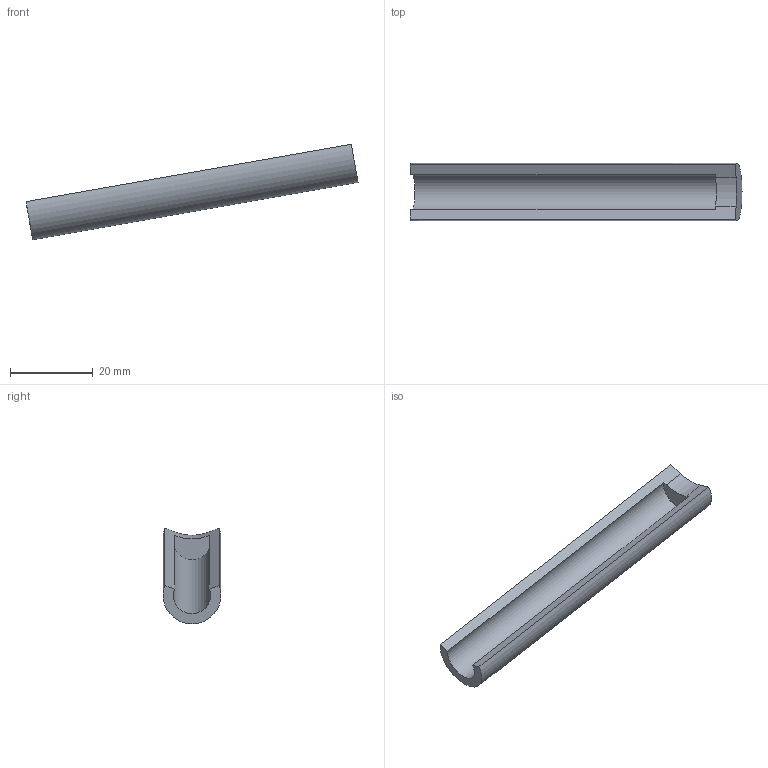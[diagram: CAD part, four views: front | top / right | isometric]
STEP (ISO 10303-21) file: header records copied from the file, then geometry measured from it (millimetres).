
FILE_DESCRIPTION(/* description */ ('STEP AP242 Edition 2','CAx-IF Rec.Pracs.---Representation and Presentation of Product Manufacturing Information (PMI)---4.0---2014-10-13','CAx-IF Rec.Pracs.---3D Tessellated Geometry---0.4---2014-09-14','2;1','CAx-IF Rec.Pracs.---User Defined Attributes---1.5---2016-08-15'),/* implementation_level */ '2;1');
FILE_NAME(/* name */ 'Assembly 1 - Part 4',/* time_stamp */ '2026-10-18T18:48:31Z',/* author */ (''),/* organization */ (''),/* preprocessor_version */ 'ST-DEVELOPER v20',/* originating_system */ 'ONSHAPE BY PTC INC, 1.222',/* authorisation */ ' ');
FILE_SCHEMA (('AP242_MANAGED_MODEL_BASED_3D_ENGINEERING_MIM_LF { 1 0 10303 442 3 1 4 }'));
Length unit declared in the file: metre
Products named in the file (1): Part 4
Bounding box: 80.42 x 14 x 23.14 mm (x, y, z)
Volume: 4617.5 mm3; surface area: 4080.8 mm2
Topology: 1 solids, 1 shells, 8 faces, 18 edges, 12 vertices
Faces by surface type: plane 5, cylinder 3
Entity records: 250 total; most frequent: DIRECTION 42, CARTESIAN_POINT 39, ORIENTED_EDGE 36, EDGE_CURVE 18, AXIS2_PLACEMENT_3D 15, VERTEX_POINT 12, LINE 12, VECTOR 12
